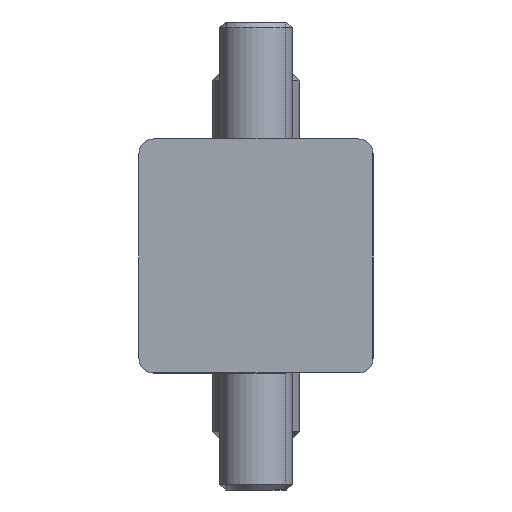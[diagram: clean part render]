
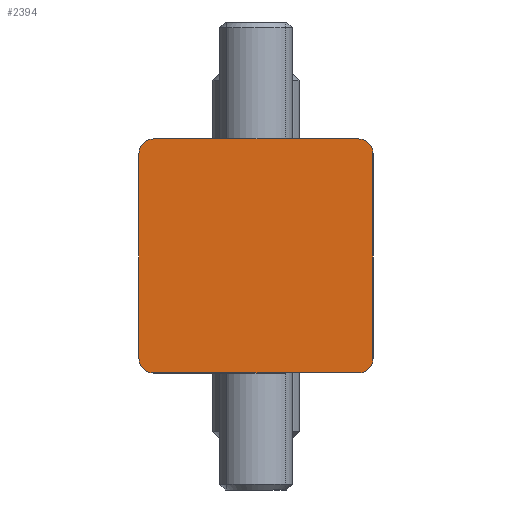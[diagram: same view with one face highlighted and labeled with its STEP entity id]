
A CAD part, front view. The second image highlights one B-rep face of the part: STEP entity #2394.
In plain terms, the highlighted planar face has unit normal (0, -1, 0) as drawn and (1, 0, 0) by its records, which use the part's own axes.
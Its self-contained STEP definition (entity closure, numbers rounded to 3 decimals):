
#40 = CARTESIAN_POINT ( 'NONE',  ( 368., 3.5, -3.5 ) ) ;
#116 = DIRECTION ( 'NONE',  ( 1., 0., 0. ) ) ;
#186 = DIRECTION ( 'NONE',  ( 1., 0., 0. ) ) ;
#253 = DIRECTION ( 'NONE',  ( 0., 0., -1. ) ) ;
#254 = DIRECTION ( 'NONE',  ( 1., 0., 0. ) ) ;
#255 = CARTESIAN_POINT ( 'NONE',  ( 368., -3.5, 3.5 ) ) ;
#261 = DIRECTION ( 'NONE',  ( 0., 0., -1. ) ) ;
#264 = CARTESIAN_POINT ( 'NONE',  ( 368., 4., 4. ) ) ;
#266 = DIRECTION ( 'NONE',  ( 0., 0., 1. ) ) ;
#352 = DIRECTION ( 'NONE',  ( 0., 0., -1. ) ) ;
#483 = DIRECTION ( 'NONE',  ( 0., 0., -1. ) ) ;
#517 = CARTESIAN_POINT ( 'NONE',  ( 368., -4., 4. ) ) ;
#521 = CARTESIAN_POINT ( 'NONE',  ( 368., -4., 4. ) ) ;
#572 = DIRECTION ( 'NONE',  ( 0., 0., -1. ) ) ;
#603 = DIRECTION ( 'NONE',  ( 1., 0., 0. ) ) ;
#700 = DIRECTION ( 'NONE',  ( 0., 0., -1. ) ) ;
#718 = CARTESIAN_POINT ( 'NONE',  ( 368., 4., 4. ) ) ;
#723 = DIRECTION ( 'NONE',  ( 0., -1., 0. ) ) ;
#730 = PLANE ( 'NONE',  #2514 ) ;
#752 = CARTESIAN_POINT ( 'NONE',  ( 368., -3.5, -3.5 ) ) ;
#957 = DIRECTION ( 'NONE',  ( 1., 0., 0. ) ) ;
#1045 = CARTESIAN_POINT ( 'NONE',  ( 368., 3.5, 3.5 ) ) ;
#1193 = CIRCLE ( 'NONE', #2723, 0.5 ) ;
#1195 = ORIENTED_EDGE ( 'NONE', *, *, #2562, .T. ) ;
#1320 = ORIENTED_EDGE ( 'NONE', *, *, #1937, .T. ) ;
#1340 = VERTEX_POINT ( 'NONE', #2348 ) ;
#1345 = ORIENTED_EDGE ( 'NONE', *, *, #1984, .T. ) ;
#1452 = ORIENTED_EDGE ( 'NONE', *, *, #1997, .T. ) ;
#1503 = VERTEX_POINT ( 'NONE', #2221 ) ;
#1509 = VERTEX_POINT ( 'NONE', #2336 ) ;
#1514 = FACE_OUTER_BOUND ( 'NONE', #1534, .T. ) ;
#1534 = EDGE_LOOP ( 'NONE', ( #1195, #1345, #1320, #1650, #1928, #1452, #1657, #1776 ) ) ;
#1578 = CIRCLE ( 'NONE', #2727, 0.5 ) ;
#1617 = VECTOR ( 'NONE', #2260, 1000. ) ;
#1629 = VERTEX_POINT ( 'NONE', #2326 ) ;
#1647 = LINE ( 'NONE', #517, #1687 ) ;
#1650 = ORIENTED_EDGE ( 'NONE', *, *, #1988, .T. ) ;
#1651 = VERTEX_POINT ( 'NONE', #2168 ) ;
#1657 = ORIENTED_EDGE ( 'NONE', *, *, #2591, .T. ) ;
#1670 = VECTOR ( 'NONE', #723, 1000. ) ;
#1672 = VERTEX_POINT ( 'NONE', #2237 ) ;
#1687 = VECTOR ( 'NONE', #700, 1000. ) ;
#1776 = ORIENTED_EDGE ( 'NONE', *, *, #2655, .T. ) ;
#1779 = LINE ( 'NONE', #718, #1670 ) ;
#1791 = VERTEX_POINT ( 'NONE', #2195 ) ;
#1801 = CIRCLE ( 'NONE', #2725, 0.5 ) ;
#1860 = LINE ( 'NONE', #2219, #1617 ) ;
#1927 = VERTEX_POINT ( 'NONE', #2295 ) ;
#1928 = ORIENTED_EDGE ( 'NONE', *, *, #2656, .T. ) ;
#1937 = EDGE_CURVE ( 'NONE', #1340, #1791, #1860, .T. ) ;
#1984 = EDGE_CURVE ( 'NONE', #1509, #1340, #1193, .T. ) ;
#1988 = EDGE_CURVE ( 'NONE', #1791, #1927, #1578, .T. ) ;
#1997 = EDGE_CURVE ( 'NONE', #1672, #1503, #1801, .T. ) ;
#2051 = LINE ( 'NONE', #264, #2107 ) ;
#2088 = CIRCLE ( 'NONE', #2477, 0.5 ) ;
#2107 = VECTOR ( 'NONE', #266, 1000. ) ;
#2168 = CARTESIAN_POINT ( 'NONE',  ( 368., -4., 3.5 ) ) ;
#2195 = CARTESIAN_POINT ( 'NONE',  ( 368., 3.5, -4. ) ) ;
#2219 = CARTESIAN_POINT ( 'NONE',  ( 368., 4., -4. ) ) ;
#2221 = CARTESIAN_POINT ( 'NONE',  ( 368., 3.5, 4. ) ) ;
#2237 = CARTESIAN_POINT ( 'NONE',  ( 368., 4., 3.5 ) ) ;
#2260 = DIRECTION ( 'NONE',  ( 0., 1., 0. ) ) ;
#2295 = CARTESIAN_POINT ( 'NONE',  ( 368., 4., -3.5 ) ) ;
#2326 = CARTESIAN_POINT ( 'NONE',  ( 368., -3.5, 4. ) ) ;
#2336 = CARTESIAN_POINT ( 'NONE',  ( 368., -4., -3.5 ) ) ;
#2348 = CARTESIAN_POINT ( 'NONE',  ( 368., -3.5, -4. ) ) ;
#2394 = ADVANCED_FACE ( 'NONE', ( #1514 ), #730, .T. ) ;
#2477 = AXIS2_PLACEMENT_3D ( 'NONE', #255, #254, #253 ) ;
#2514 = AXIS2_PLACEMENT_3D ( 'NONE', #521, #603, #261 ) ;
#2562 = EDGE_CURVE ( 'NONE', #1651, #1509, #1647, .T. ) ;
#2591 = EDGE_CURVE ( 'NONE', #1503, #1629, #1779, .T. ) ;
#2655 = EDGE_CURVE ( 'NONE', #1629, #1651, #2088, .T. ) ;
#2656 = EDGE_CURVE ( 'NONE', #1927, #1672, #2051, .T. ) ;
#2723 = AXIS2_PLACEMENT_3D ( 'NONE', #752, #186, #483 ) ;
#2725 = AXIS2_PLACEMENT_3D ( 'NONE', #1045, #957, #572 ) ;
#2727 = AXIS2_PLACEMENT_3D ( 'NONE', #40, #116, #352 ) ;
